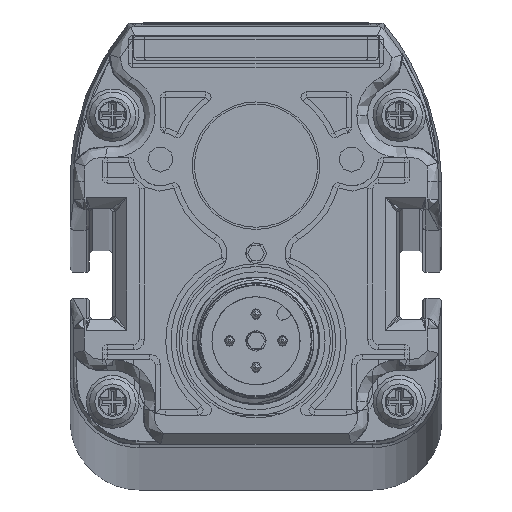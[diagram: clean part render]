
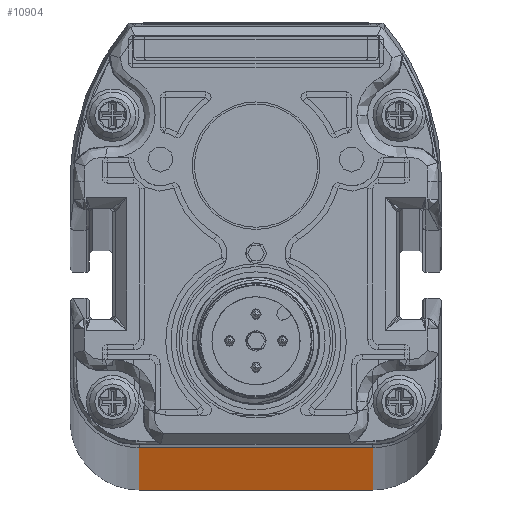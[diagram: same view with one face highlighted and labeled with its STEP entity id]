
A CAD part, top view. The second image highlights one B-rep face of the part: STEP entity #10904.
In plain terms, the highlighted planar face has unit normal (0, -1, 0).
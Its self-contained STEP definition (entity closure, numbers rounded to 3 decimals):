
#8763=B_SPLINE_CURVE_WITH_KNOTS('',3,(#44260,#44261,#44262,#44263),
 .UNSPECIFIED.,.F.,.F.,(4,4),(0.,1.),.UNSPECIFIED.);
#8764=B_SPLINE_CURVE_WITH_KNOTS('',3,(#44267,#44268,#44269,#44270),
 .UNSPECIFIED.,.F.,.F.,(4,4),(0.,1.),.UNSPECIFIED.);
#9650=FACE_OUTER_BOUND('',#12925,.T.);
#10904=ADVANCED_FACE('F5555',(#9650),#11751,.T.);
#11751=PLANE('',#29282);
#12925=EDGE_LOOP('',(#17968,#17969,#17970,#17971));
#17968=ORIENTED_EDGE('',*,*,#24439,.F.);
#17969=ORIENTED_EDGE('',*,*,#24438,.T.);
#17970=ORIENTED_EDGE('',*,*,#24084,.F.);
#17971=ORIENTED_EDGE('',*,*,#24440,.T.);
#21557=VERTEX_POINT('',#41011);
#21680=VERTEX_POINT('',#42428);
#21880=VERTEX_POINT('',#44259);
#21881=VERTEX_POINT('',#44266);
#24084=EDGE_CURVE('',#21557,#21680,#26332,.T.);
#24438=EDGE_CURVE('',#21880,#21680,#8763,.T.);
#24439=EDGE_CURVE('',#21880,#21881,#26424,.T.);
#24440=EDGE_CURVE('',#21557,#21881,#8764,.T.);
#26332=LINE('',#42504,#27526);
#26424=LINE('',#44265,#27618);
#27526=VECTOR('',#32726,1.);
#27618=VECTOR('',#33272,1.);
#29282=AXIS2_PLACEMENT_3D('',#44271,#33273,#33274);
#32726=DIRECTION('',(1.,0.,0.));
#33272=DIRECTION('',(-1.,0.,0.));
#33273=DIRECTION('',(0.,-1.,0.));
#33274=DIRECTION('',(1.,0.,0.));
#41011=CARTESIAN_POINT('',(71.013,-2.493,243.168));
#42428=CARTESIAN_POINT('',(93.013,-2.493,243.168));
#42504=CARTESIAN_POINT('',(82.013,-2.493,243.168));
#44259=CARTESIAN_POINT('',(93.013,-2.493,-2034.232));
#44260=CARTESIAN_POINT('',(93.013,-2.493,-2034.232));
#44261=CARTESIAN_POINT('',(93.013,-2.493,-1275.098));
#44262=CARTESIAN_POINT('',(93.013,-2.493,-515.965));
#44263=CARTESIAN_POINT('',(93.013,-2.493,243.168));
#44265=CARTESIAN_POINT('',(64.513,-2.493,-2034.232));
#44266=CARTESIAN_POINT('',(71.013,-2.493,-2034.232));
#44267=CARTESIAN_POINT('',(71.013,-2.493,243.168));
#44268=CARTESIAN_POINT('',(71.013,-2.493,-515.965));
#44269=CARTESIAN_POINT('',(71.013,-2.493,-1275.098));
#44270=CARTESIAN_POINT('',(71.013,-2.493,-2034.232));
#44271=CARTESIAN_POINT('',(64.513,-2.493,-1005.332));
